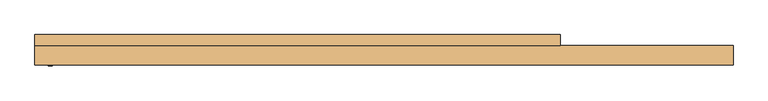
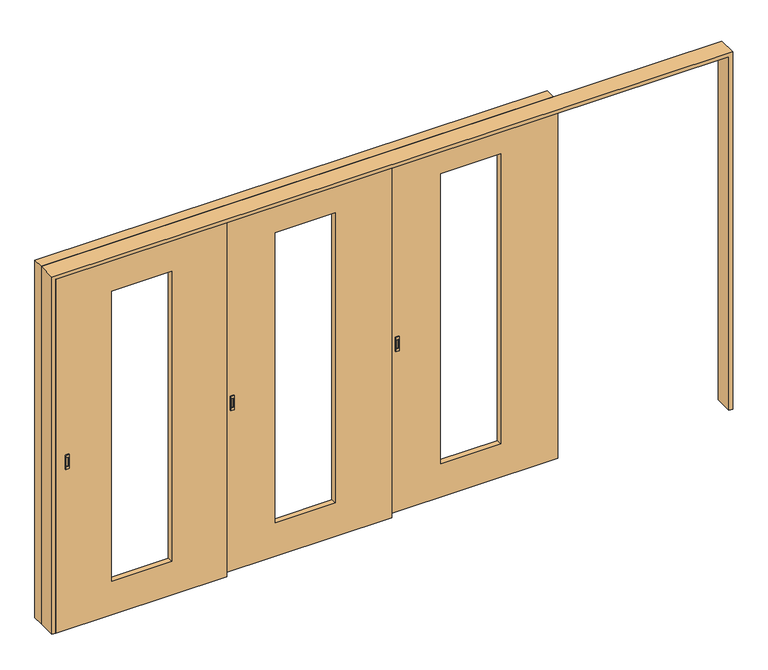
"""IFC4 building model written with IfcOpenShell, lengths in millimetres: door geometry, 木製_片引き3枚_フラッシュ2 : WD-8 w2700h2000."""

from ifc_helpers import new_model, si_unit, frame, origin, place, context, project, spatial, polyline, outline, extrude, faceted_brep, source, transform, mapped, element, save


def door_2193869f(model_context):
    return source(origin(), model_context, "Body", "SolidModel", [
        faceted_brep([(514.464496, 22.5, 910.0), (494.464496, 22.5, 910.0), (494.464496, 22.5, 990.0), (514.464496, 22.5, 990.0), (499.464496, 22.5, 975.0), (499.464496, 22.5, 925.0), (509.464496, 22.5, 925.0), (509.464496, 22.5, 975.0), (514.464496, -17.5, 910.0), (514.464496, -17.5, 990.0), (494.464496, -17.5, 990.0), (494.464496, -17.5, 910.0), (499.464496, -17.5, 925.0), (499.464496, -17.5, 975.0), (509.464496, -17.5, 975.0), (509.464496, -17.5, 925.0), (499.464496, 17.5, 975.0), (509.464496, 17.5, 975.0), (509.464496, 17.5, 925.0), (499.464496, 17.5, 925.0), (509.464496, -12.5, 925.0), (509.464496, -12.5, 975.0), (499.464496, -12.5, 975.0), (499.464496, -12.5, 925.0)], [[[0, 1, 2, 3], [4, 5, 6, 7]], [[8, 9, 10, 11], [12, 13, 14, 15]], [[3, 9, 8, 0]], [[2, 10, 9, 3]], [[1, 11, 10, 2]], [[0, 8, 11, 1]], [[16, 17, 18, 19]], [[16, 4, 7, 17]], [[17, 7, 6, 18]], [[18, 6, 5, 19]], [[19, 5, 4, 16]], [[20, 21, 22, 23]], [[23, 12, 15, 20]], [[22, 13, 12, 23]], [[21, 14, 13, 22]], [[20, 15, 14, 21]]]),
        faceted_brep([(-385.535504, -7.5, 910.0), (-405.535504, -7.5, 910.0), (-405.535504, -7.5, 990.0), (-385.535504, -7.5, 990.0), (-400.535504, -7.5, 975.0), (-400.535504, -7.5, 925.0), (-390.535504, -7.5, 925.0), (-390.535504, -7.5, 975.0), (-385.535504, -47.5, 910.0), (-385.535504, -47.5, 990.0), (-405.535504, -47.5, 990.0), (-405.535504, -47.5, 910.0), (-400.535504, -47.5, 925.0), (-400.535504, -47.5, 975.0), (-390.535504, -47.5, 975.0), (-390.535504, -47.5, 925.0), (-400.535504, -12.5, 975.0), (-390.535504, -12.5, 975.0), (-390.535504, -12.5, 925.0), (-400.535504, -12.5, 925.0), (-390.535504, -42.5, 925.0), (-390.535504, -42.5, 975.0), (-400.535504, -42.5, 975.0), (-400.535504, -42.5, 925.0)], [[[0, 1, 2, 3], [4, 5, 6, 7]], [[8, 9, 10, 11], [12, 13, 14, 15]], [[3, 9, 8, 0]], [[2, 10, 9, 3]], [[1, 11, 10, 2]], [[0, 8, 11, 1]], [[16, 17, 18, 19]], [[16, 4, 7, 17]], [[17, 7, 6, 18]], [[18, 6, 5, 19]], [[19, 5, 4, 16]], [[20, 21, 22, 23]], [[23, 12, 15, 20]], [[22, 13, 12, 23]], [[21, 14, 13, 22]], [[20, 15, 14, 21]]]),
        faceted_brep([(-1285.535504, -37.5, 910.0), (-1305.535504, -37.5, 910.0), (-1305.535504, -37.5, 990.0), (-1285.535504, -37.5, 990.0), (-1300.535504, -37.5, 975.0), (-1300.535504, -37.5, 925.0), (-1290.535504, -37.5, 925.0), (-1290.535504, -37.5, 975.0), (-1285.535504, -77.5, 910.0), (-1285.535504, -77.5, 990.0), (-1305.535504, -77.5, 990.0), (-1305.535504, -77.5, 910.0), (-1300.535504, -77.5, 925.0), (-1300.535504, -77.5, 975.0), (-1290.535504, -77.5, 975.0), (-1290.535504, -77.5, 925.0), (-1300.535504, -42.5, 975.0), (-1290.535504, -42.5, 975.0), (-1290.535504, -42.5, 925.0), (-1300.535504, -42.5, 925.0), (-1290.535504, -72.5, 925.0), (-1290.535504, -72.5, 975.0), (-1300.535504, -72.5, 975.0), (-1300.535504, -72.5, 925.0)], [[[0, 1, 2, 3], [4, 5, 6, 7]], [[8, 9, 10, 11], [12, 13, 14, 15]], [[3, 9, 8, 0]], [[2, 10, 9, 3]], [[1, 11, 10, 2]], [[0, 8, 11, 1]], [[16, 17, 18, 19]], [[16, 4, 7, 17]], [[17, 7, 6, 18]], [[18, 6, 5, 19]], [[19, 5, 4, 16]], [[20, 21, 22, 23]], [[23, 12, 15, 20]], [[22, 13, 12, 23]], [[21, 14, 13, 22]], [[20, 15, 14, 21]]]),
        extrude(outline(polyline([(2000.0, 1364.464496), (2000.0, 429.464496), (0.0, 429.464496), (0.0, 1364.464496), (2000.0, 1364.464496)]), holes=[polyline([(1829.0931833, 1059.1056252), (189.0931833, 1059.1056252), (189.0931833, 739.1056252), (1829.0931833, 739.1056252), (1829.0931833, 1059.1056252)])]), frame((0.0, -12.5, 0.0), z_axis=(0.0, 1.0, 0.0), x_axis=(0.0, 0.0, 1.0)), (0.0, 0.0, 1.0), 30.0),
        extrude(outline(polyline([(2000.0, 459.464496), (2000.0, -470.535504), (0.0, -470.535504), (0.0, 459.464496), (2000.0, 459.464496)]), holes=[polyline([(1829.0931833, 156.6056252), (189.0931833, 156.6056252), (189.0931833, -163.3943748), (1829.0931833, -163.3943748), (1829.0931833, 156.6056252)])]), frame((0.0, -42.5, 0.0), z_axis=(0.0, 1.0, 0.0), x_axis=(0.0, 0.0, 1.0)), (0.0, 0.0, 1.0), 30.0),
        extrude(outline(polyline([(2020.0, 1364.464496), (2020.0, -1375.535504), (0.0, -1375.535504), (0.0, -1355.535504), (2000.0, -1355.535504), (2000.0, 1344.464496), (0.0, 1344.464496), (0.0, 1364.464496), (2020.0, 1364.464496)])), frame((0.0, 27.5, 0.0), z_axis=(0.0, 1.0, 0.0), x_axis=(0.0, 0.0, 1.0)), (0.0, 0.0, 1.0), 57.5),
        extrude(outline(polyline([(2020.0, 2264.464496), (2020.0, -1375.535504), (0.0, -1375.535504), (0.0, -1355.535504), (2000.0, -1355.535504), (2000.0, 2244.464496), (0.0, 2244.464496), (0.0, 2264.464496), (2020.0, 2264.464496)])), frame((0.0, -72.5, 0.0), z_axis=(0.0, 1.0, 0.0), x_axis=(0.0, 0.0, 1.0)), (0.0, 0.0, 1.0), 100.0),
        extrude(outline(polyline([(2000.0, -440.535504), (2000.0, -1355.535504), (0.0, -1355.535504), (0.0, -440.535504), (2000.0, -440.535504)]), holes=[polyline([(1829.0931833, -735.8943748), (189.0931833, -735.8943748), (189.0931833, -1055.8943748), (1829.0931833, -1055.8943748), (1829.0931833, -735.8943748)])]), frame((0.0, -72.5, 0.0), z_axis=(0.0, 1.0, 0.0), x_axis=(0.0, 0.0, 1.0)), (0.0, 0.0, 1.0), 30.0),
    ])


if __name__ == "__main__":
    model = new_model("IFC4")
    model_context = context("Model", 3, world=origin())
    ifc_project = project(units=[si_unit("LENGTHUNIT", "METRE", prefix="MILLI")], contexts=[model_context])
    site = spatial("IfcSite", under=ifc_project)
    building = spatial("IfcBuilding", under=site)
    placement = place(None, origin())
    door_shape = door_2193869f(model_context)
    element("IfcDoor", 1, ObjectType="木製_片引き3枚_フラッシュ2 : WD-8 w2700h2000", at=placement, inside=building, context=model_context, shape_type="MappedRepresentation", body=[
        mapped(door_shape, transform((0.0, 0.0, 0.0), x_axis=(1.0, 0.0, 0.0), y_axis=(0.0, 1.0, 0.0), z_axis=(0.0, 0.0, 1.0))),
    ])
    save(model, "model.ifc")
